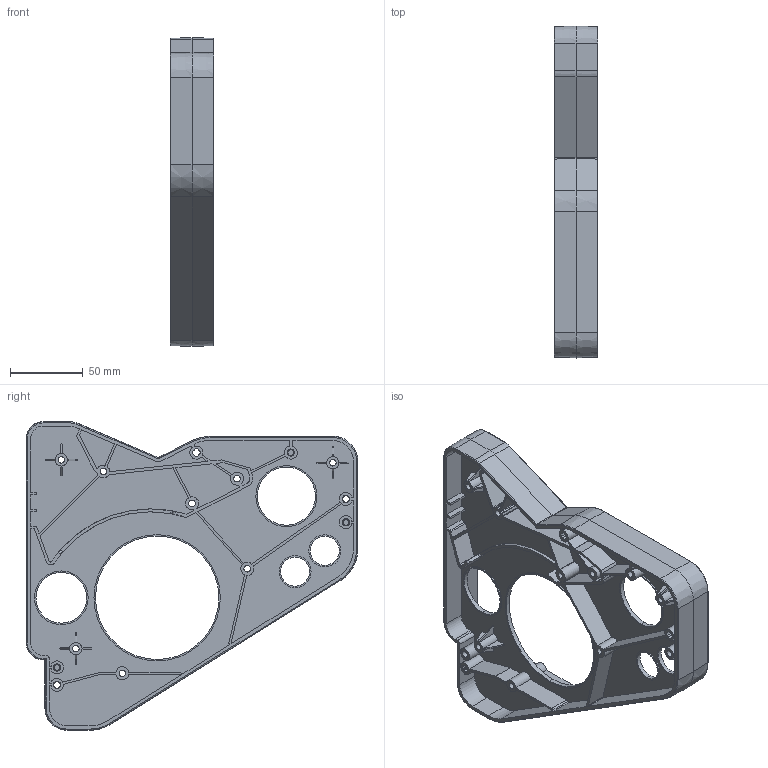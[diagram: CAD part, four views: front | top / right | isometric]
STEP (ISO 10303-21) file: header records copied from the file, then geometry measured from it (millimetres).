
FILE_DESCRIPTION((''),'2;1');
FILE_NAME('184429','2023-02-06T11:33:34',('1ke04'),('Kesseboehmer'),'CREO PARAMETRIC BY PTC INC, 2020414','CREO PARAMETRIC BY PTC INC, 2020414','');
FILE_SCHEMA(('AUTOMOTIVE_DESIGN { 1 0 10303 214 1 1 1 1 }'));
Length unit declared in the file: millimetre
Products named in the file (1): 184429
Bounding box: 30 x 228.53 x 212.53 mm (x, y, z)
Volume: 151947.3 mm3; surface area: 155983.6 mm2
Topology: 1 solids, 1 shells, 827 faces, 2226 edges, 1449 vertices
Faces by surface type: cylinder 404, plane 363, cone 42, torus 18
Entity records: 34078 total; most frequent: CARTESIAN_POINT 4996, DIRECTION 4830, ORIENTED_EDGE 4452, PRESENTATION_STYLE_ASSIGNMENT 2272, STYLED_ITEM 2272, CURVE_STYLE 2271, EDGE_CURVE 2226, AXIS2_PLACEMENT_3D 1756
